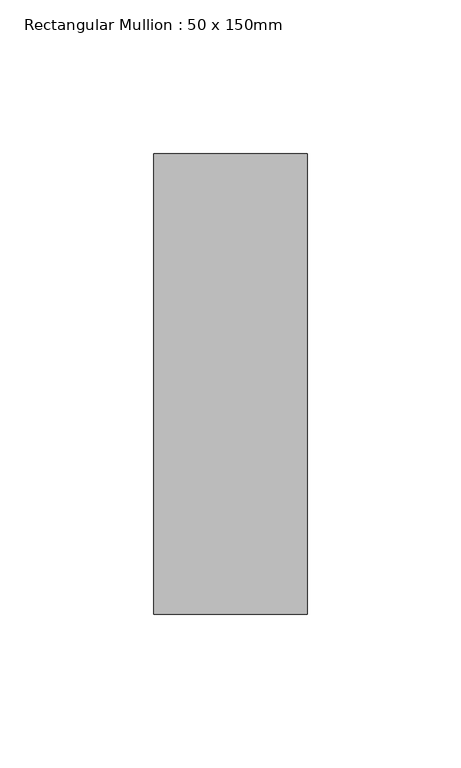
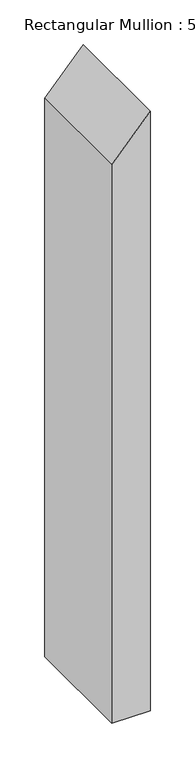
"""IFC4 building model written with IfcOpenShell, lengths in millimetres: member geometry, Rectangular Mullion : 50 x 150mm."""

from ifc_helpers import new_model, si_unit, frame, origin, place, context, project, spatial, polyline, outline, extrude, source, transform, mapped, element, save


def rectangular_mullion_50_x_150mm_8799cd11(model_context):
    return source(origin(), model_context, "Body", "SweptSolid", [
        extrude(outline(polyline([(0.0, 0.0), (-55.7661923, -50.0), (-820.1299412, -50.0), (-820.1299412, 0.0), (0.0, 0.0)])), frame((0.0, -75.0, 0.0), z_axis=(0.0, 1.0, 0.0), x_axis=(0.0, 0.0, 1.0)), (0.0, 0.0, 1.0), 150.0),
    ])


if __name__ == "__main__":
    model = new_model("IFC4")
    model_context = context("Model", 3, world=origin())
    ifc_project = project(units=[si_unit("LENGTHUNIT", "METRE", prefix="MILLI")], contexts=[model_context])
    site = spatial("IfcSite", under=ifc_project)
    building = spatial("IfcBuilding", under=site)
    placement = place(None, origin())
    rectangular_mullion_50_x_150mm_shape = rectangular_mullion_50_x_150mm_8799cd11(model_context)
    element("IfcMember", 1, ObjectType="Rectangular Mullion : 50 x 150mm", at=placement, inside=building, context=model_context, shape_type="MappedRepresentation", body=[
        mapped(rectangular_mullion_50_x_150mm_shape, transform((0.0, 0.0, 0.0), x_axis=(1.0, 0.0, 0.0), y_axis=(0.0, 1.0, 0.0), z_axis=(0.0, 0.0, 1.0))),
    ])
    save(model, "model.ifc")
